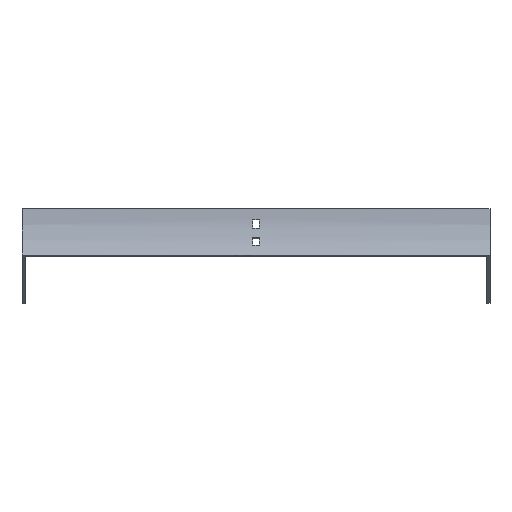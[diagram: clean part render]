
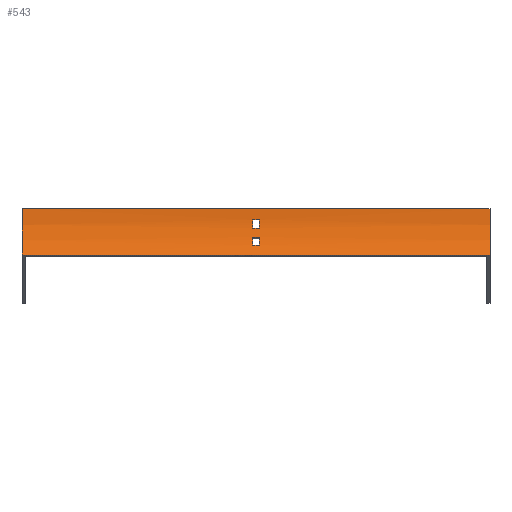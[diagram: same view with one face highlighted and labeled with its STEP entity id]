
A CAD part, front view. The second image highlights one B-rep face of the part: STEP entity #543.
In plain terms, the highlighted cylindrical face has radius 100 mm (diameter 200 mm), a partial arc.
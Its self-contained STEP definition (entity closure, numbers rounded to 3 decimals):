
#13 = DIRECTION ( 'NONE',  ( 0., 0., -1. ) ) ;
#22 = AXIS2_PLACEMENT_3D ( 'NONE', #1605, #947, #51 ) ;
#34 = VERTEX_POINT ( 'NONE', #182 ) ;
#51 = DIRECTION ( 'NONE',  ( 0., 0., 1. ) ) ;
#54 = CARTESIAN_POINT ( 'NONE',  ( 252., 0., 0. ) ) ;
#63 = VECTOR ( 'NONE', #1140, 1000. ) ;
#76 = FACE_OUTER_BOUND ( 'NONE', #224, .T. ) ;
#83 = EDGE_CURVE ( 'NONE', #418, #677, #311, .T. ) ;
#92 = LINE ( 'NONE', #618, #63 ) ;
#100 = DIRECTION ( 'NONE',  ( -1., 0., 0. ) ) ;
#105 = CARTESIAN_POINT ( 'NONE',  ( -252., -13.397, -50. ) ) ;
#145 = CARTESIAN_POINT ( 'NONE',  ( 3.25, -4.829, -30.699 ) ) ;
#154 = CARTESIAN_POINT ( 'NONE',  ( -3.25, -100., 0. ) ) ;
#182 = CARTESIAN_POINT ( 'NONE',  ( -3.25, -8.023, -39.246 ) ) ;
#189 = ORIENTED_EDGE ( 'NONE', *, *, #83, .F. ) ;
#218 = DIRECTION ( 'NONE',  ( 0., 0., 1. ) ) ;
#224 = EDGE_LOOP ( 'NONE', ( #1627, #754, #1666, #675 ) ) ;
#228 = VERTEX_POINT ( 'NONE', #476 ) ;
#231 = DIRECTION ( 'NONE',  ( -1., 0., 0. ) ) ;
#243 = EDGE_CURVE ( 'NONE', #1214, #1254, #1282, .T. ) ;
#256 = CIRCLE ( 'NONE', #877, 100. ) ;
#278 = ORIENTED_EDGE ( 'NONE', *, *, #1145, .T. ) ;
#307 = CARTESIAN_POINT ( 'NONE',  ( 252., -8.023, -39.246 ) ) ;
#311 = CIRCLE ( 'NONE', #1396, 100. ) ;
#323 = CARTESIAN_POINT ( 'NONE',  ( -3.25, -4.829, -30.699 ) ) ;
#342 = CARTESIAN_POINT ( 'NONE',  ( 252., -2.23, -21. ) ) ;
#374 = DIRECTION ( 'NONE',  ( -1., 0., 0. ) ) ;
#392 = ORIENTED_EDGE ( 'NONE', *, *, #998, .F. ) ;
#395 = DIRECTION ( 'NONE',  ( 0., 0., 1. ) ) ;
#418 = VERTEX_POINT ( 'NONE', #844 ) ;
#443 = DIRECTION ( 'NONE',  ( -1., 0., 0. ) ) ;
#453 = DIRECTION ( 'NONE',  ( -1., 0., 0. ) ) ;
#467 = CARTESIAN_POINT ( 'NONE',  ( 252., -100., 0. ) ) ;
#476 = CARTESIAN_POINT ( 'NONE',  ( -3.25, -0.723, -12. ) ) ;
#478 = ORIENTED_EDGE ( 'NONE', *, *, #772, .T. ) ;
#483 = CARTESIAN_POINT ( 'NONE',  ( 3.25, -2.23, -21. ) ) ;
#484 = LINE ( 'NONE', #342, #599 ) ;
#486 = FACE_BOUND ( 'NONE', #843, .T. ) ;
#536 = VERTEX_POINT ( 'NONE', #953 ) ;
#543 = ADVANCED_FACE ( 'NONE', ( #76, #486, #1664 ), #1272, .F. ) ;
#572 = CARTESIAN_POINT ( 'NONE',  ( -252., 0., 0. ) ) ;
#599 = VECTOR ( 'NONE', #100, 1000. ) ;
#613 = DIRECTION ( 'NONE',  ( 0., 0., 1. ) ) ;
#618 = CARTESIAN_POINT ( 'NONE',  ( 252., -0.723, -12. ) ) ;
#628 = DIRECTION ( 'NONE',  ( -1., 0., 0. ) ) ;
#634 = VECTOR ( 'NONE', #453, 1000. ) ;
#637 = EDGE_CURVE ( 'NONE', #536, #228, #256, .T. ) ;
#640 = EDGE_CURVE ( 'NONE', #1254, #1072, #1640, .T. ) ;
#665 = CARTESIAN_POINT ( 'NONE',  ( 252., -13.397, -50. ) ) ;
#675 = ORIENTED_EDGE ( 'NONE', *, *, #829, .T. ) ;
#677 = VERTEX_POINT ( 'NONE', #145 ) ;
#735 = DIRECTION ( 'NONE',  ( 1., 0., 0. ) ) ;
#754 = ORIENTED_EDGE ( 'NONE', *, *, #640, .F. ) ;
#757 = CIRCLE ( 'NONE', #22, 100. ) ;
#772 = EDGE_CURVE ( 'NONE', #1562, #1157, #795, .T. ) ;
#781 = CARTESIAN_POINT ( 'NONE',  ( 252., -100., 0. ) ) ;
#795 = CIRCLE ( 'NONE', #828, 100. ) ;
#828 = AXIS2_PLACEMENT_3D ( 'NONE', #949, #443, #1231 ) ;
#829 = EDGE_CURVE ( 'NONE', #1214, #1472, #842, .T. ) ;
#842 = LINE ( 'NONE', #54, #1234 ) ;
#843 = EDGE_LOOP ( 'NONE', ( #1447, #1465, #278, #478 ) ) ;
#844 = CARTESIAN_POINT ( 'NONE',  ( 3.25, -8.023, -39.246 ) ) ;
#877 = AXIS2_PLACEMENT_3D ( 'NONE', #1007, #1391, #1129 ) ;
#921 = EDGE_CURVE ( 'NONE', #1412, #34, #1014, .T. ) ;
#945 = CARTESIAN_POINT ( 'NONE',  ( 252., 0., 0. ) ) ;
#947 = DIRECTION ( 'NONE',  ( -1., 0., 0. ) ) ;
#949 = CARTESIAN_POINT ( 'NONE',  ( 3.25, -100., 0. ) ) ;
#953 = CARTESIAN_POINT ( 'NONE',  ( -3.25, -2.23, -21. ) ) ;
#978 = EDGE_CURVE ( 'NONE', #677, #1412, #1221, .T. ) ;
#998 = EDGE_CURVE ( 'NONE', #34, #418, #1363, .T. ) ;
#1007 = CARTESIAN_POINT ( 'NONE',  ( -3.25, -100., 0. ) ) ;
#1010 = AXIS2_PLACEMENT_3D ( 'NONE', #781, #374, #395 ) ;
#1014 = CIRCLE ( 'NONE', #1348, 100. ) ;
#1072 = VERTEX_POINT ( 'NONE', #105 ) ;
#1093 = ORIENTED_EDGE ( 'NONE', *, *, #978, .F. ) ;
#1129 = DIRECTION ( 'NONE',  ( 0., 0., 1. ) ) ;
#1140 = DIRECTION ( 'NONE',  ( 1., 0., 0. ) ) ;
#1145 = EDGE_CURVE ( 'NONE', #228, #1562, #92, .T. ) ;
#1157 = VERTEX_POINT ( 'NONE', #483 ) ;
#1181 = DIRECTION ( 'NONE',  ( -1., 0., 0. ) ) ;
#1212 = CARTESIAN_POINT ( 'NONE',  ( 252., -4.829, -30.699 ) ) ;
#1214 = VERTEX_POINT ( 'NONE', #945 ) ;
#1221 = LINE ( 'NONE', #1212, #634 ) ;
#1231 = DIRECTION ( 'NONE',  ( 0., 0., -1. ) ) ;
#1234 = VECTOR ( 'NONE', #1347, 1000. ) ;
#1254 = VERTEX_POINT ( 'NONE', #665 ) ;
#1272 = CYLINDRICAL_SURFACE ( 'NONE', #1622, 100. ) ;
#1282 = CIRCLE ( 'NONE', #1010, 100. ) ;
#1323 = ORIENTED_EDGE ( 'NONE', *, *, #921, .F. ) ;
#1343 = VECTOR ( 'NONE', #231, 1000. ) ;
#1347 = DIRECTION ( 'NONE',  ( -1., 0., 0. ) ) ;
#1348 = AXIS2_PLACEMENT_3D ( 'NONE', #154, #1181, #13 ) ;
#1363 = LINE ( 'NONE', #307, #1567 ) ;
#1391 = DIRECTION ( 'NONE',  ( 1., 0., 0. ) ) ;
#1396 = AXIS2_PLACEMENT_3D ( 'NONE', #1502, #735, #218 ) ;
#1412 = VERTEX_POINT ( 'NONE', #323 ) ;
#1413 = CARTESIAN_POINT ( 'NONE',  ( 3.25, -0.723, -12. ) ) ;
#1447 = ORIENTED_EDGE ( 'NONE', *, *, #1491, .T. ) ;
#1465 = ORIENTED_EDGE ( 'NONE', *, *, #637, .T. ) ;
#1472 = VERTEX_POINT ( 'NONE', #572 ) ;
#1491 = EDGE_CURVE ( 'NONE', #1157, #536, #484, .T. ) ;
#1497 = DIRECTION ( 'NONE',  ( 1., 0., 0. ) ) ;
#1502 = CARTESIAN_POINT ( 'NONE',  ( 3.25, -100., 0. ) ) ;
#1533 = CARTESIAN_POINT ( 'NONE',  ( 252., -13.397, -50. ) ) ;
#1562 = VERTEX_POINT ( 'NONE', #1413 ) ;
#1567 = VECTOR ( 'NONE', #1497, 1000. ) ;
#1570 = EDGE_LOOP ( 'NONE', ( #1323, #1093, #189, #392 ) ) ;
#1605 = CARTESIAN_POINT ( 'NONE',  ( -252., -100., 0. ) ) ;
#1622 = AXIS2_PLACEMENT_3D ( 'NONE', #467, #628, #613 ) ;
#1627 = ORIENTED_EDGE ( 'NONE', *, *, #1673, .T. ) ;
#1640 = LINE ( 'NONE', #1533, #1343 ) ;
#1664 = FACE_BOUND ( 'NONE', #1570, .T. ) ;
#1666 = ORIENTED_EDGE ( 'NONE', *, *, #243, .F. ) ;
#1673 = EDGE_CURVE ( 'NONE', #1472, #1072, #757, .T. ) ;
